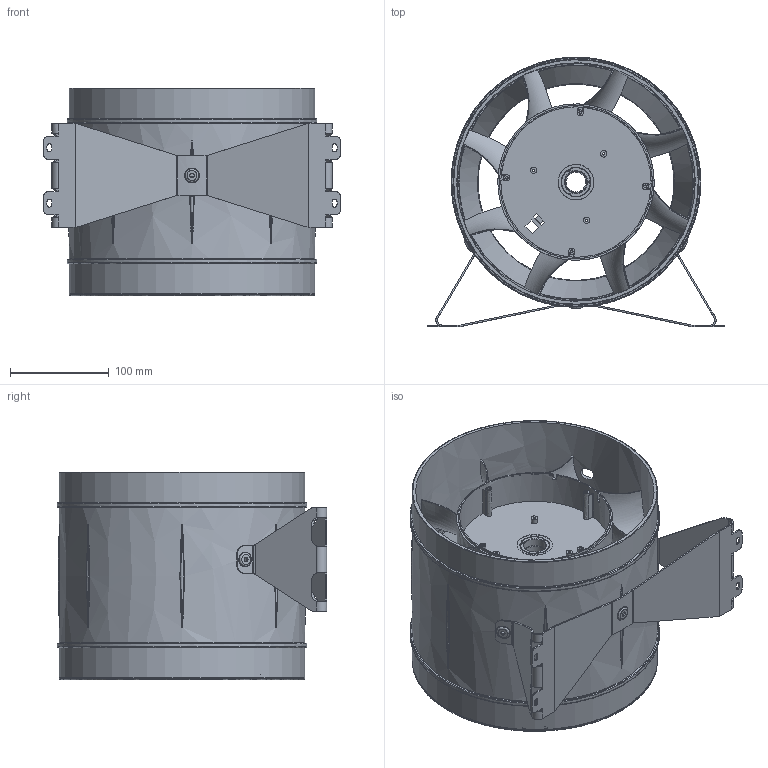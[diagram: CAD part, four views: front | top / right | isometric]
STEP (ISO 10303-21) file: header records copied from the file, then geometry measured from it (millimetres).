
FILE_DESCRIPTION ((), '1');
FILE_NAME ('C:\Users\Administrator\Desktop\塑料风机产品页\A250.stp', '2026-09-11T17:42:50', ('Unknown'), ('Unknown'), 'HarmonyWare STEP v2.1.4', 'HarmonyWare Translators', '');
FILE_SCHEMA (('CONFIG_CONTROL_DESIGN'));
Length unit declared in the file: millimetre
Products named in the file (5): 250塑胶款风机蝴蝶脚架款asm_objects
Assembly tree (4 placements, depth 2):
  (unnamed)
    250塑胶款风机蝴蝶脚架款asm_objects
    250塑胶款风机蝴蝶脚架款asm_objects
    250塑胶款风机蝴蝶脚架款asm_objects
    250塑胶款风机蝴蝶脚架款asm_objects
Bounding box: 300 x 272.11 x 209.8 mm (x, y, z)
Volume: 991477 mm3; surface area: 720703.2 mm2
Topology: 4 solids, 4 shells, 1880 faces, 5337 edges, 3580 vertices
Faces by surface type: bspline 1880
Entity records: 110260 total; most frequent: CARTESIAN_POINT 69668, ORIENTED_EDGE 10674, EDGE_CURVE 5337, B_SPLINE_CURVE_WITH_KNOTS 3736, VERTEX_POINT 3580, EDGE_LOOP 2061, FACE_OUTER_BOUND 1880, ADVANCED_FACE 1880
